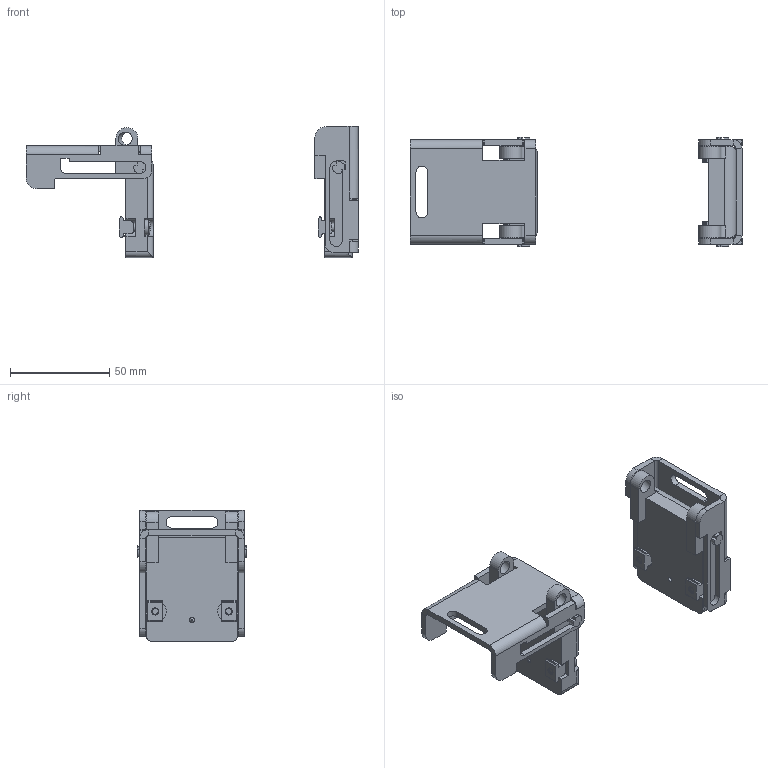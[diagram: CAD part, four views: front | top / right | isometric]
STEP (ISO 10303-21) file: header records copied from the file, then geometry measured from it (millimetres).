
FILE_DESCRIPTION(/* description */ (''),/* implementation_level */ '2;1');
FILE_NAME(/* name */ 'C:\_Vault\Workspace\Projektordner\03-Sensoren\03-OES\06-PSENoptII Zubehör II\03-Kundendaten\KD Lockout\2029624_lockout_PSEN_opII_Kundendaten.stp',/* time_stamp */ '2020-09-04T12:12:45+02:00',/* author */ ('d.ambuehl'),/* organization */ (''),/* preprocessor_version */ 'ST-DEVELOPER v18',/* originating_system */ 'Autodesk Inventor 2020',/* authorisation */ '');
FILE_SCHEMA (('AUTOMOTIVE_DESIGN { 1 0 10303 214 3 1 1 }'));
Length unit declared in the file: millimetre
Products named in the file (5): 2029624; Kundendaten_Lockout_001; Kundendaten_Lockout_002; Kundendaten_Lockout_003; Kundendaten_Lockout_004
Assembly tree (10 placements, depth 2):
  2029624
    Kundendaten_Lockout_001  x2
    Kundendaten_Lockout_002  x2
    Kundendaten_Lockout_003  x4
    Kundendaten_Lockout_004  x2
Bounding box: 166.9 x 55 x 65.9 mm (x, y, z)
Volume: 92467.4 mm3; surface area: 40850.7 mm2
Topology: 10 solids, 10 shells, 598 faces, 1652 edges, 1090 vertices
Faces by surface type: plane 352, cylinder 194, bspline 32, cone 20
Full cylindrical faces by diameter (mm): 2.459 x2, 3 x2, 3.242 x4, 4 x4, 6.7 x4, 7.8 x4
Entity records: 9364 total; most frequent: CARTESIAN_POINT 2344, ORIENTED_EDGE 1444, DIRECTION 1412, EDGE_CURVE 722, LINE 476, VECTOR 476, VERTEX_POINT 475, AXIS2_PLACEMENT_3D 468
